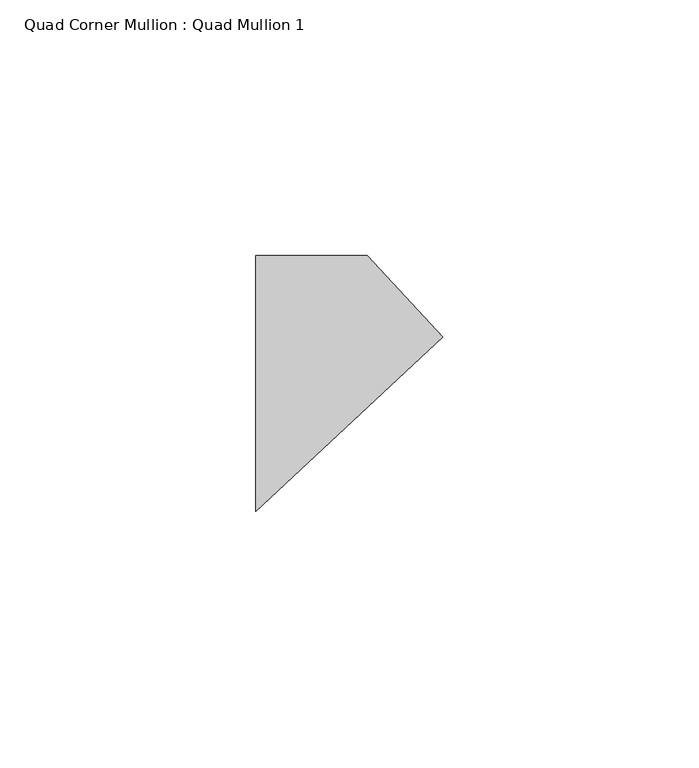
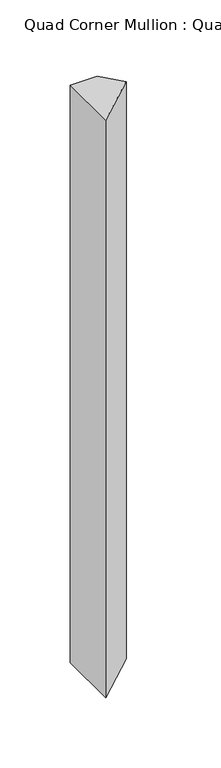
"""IFC4 building model written with IfcOpenShell, lengths in millimetres: member geometry, Quad Corner Mullion : Quad Mullion 1."""

from ifc_helpers import new_model, si_unit, frame, origin, place, context, project, spatial, polyline, outline, extrude, source, transform, mapped, element, save


def quad_corner_mullion_quad_mullion_1_4078c67a(model_context):
    return source(origin(), model_context, "Body", "SweptSolid", [
        extrude(outline(polyline([(25.6973757, 9.099918), (-10.8703094, -25.0), (-10.8703094, 25.0), (10.8703094, 25.0), (25.6973757, 9.099918)])), frame((0.0, 0.0, -500.0), z_axis=(0.0, 0.0, 1.0), x_axis=(1.0, 0.0, 0.0)), (0.0, 0.0, 1.0), 500.0),
    ])


if __name__ == "__main__":
    model = new_model("IFC4")
    model_context = context("Model", 3, world=origin())
    ifc_project = project(units=[si_unit("LENGTHUNIT", "METRE", prefix="MILLI")], contexts=[model_context])
    site = spatial("IfcSite", under=ifc_project)
    building = spatial("IfcBuilding", under=site)
    placement = place(None, origin())
    quad_corner_mullion_quad_mullion_1_shape = quad_corner_mullion_quad_mullion_1_4078c67a(model_context)
    element("IfcMember", 1, ObjectType="Quad Corner Mullion : Quad Mullion 1", at=placement, inside=building, context=model_context, shape_type="MappedRepresentation", body=[
        mapped(quad_corner_mullion_quad_mullion_1_shape, transform((0.0, 0.0, 0.0), x_axis=(1.0, 0.0, 0.0), y_axis=(0.0, 1.0, 0.0), z_axis=(0.0, 0.0, 1.0))),
    ])
    save(model, "model.ifc")
